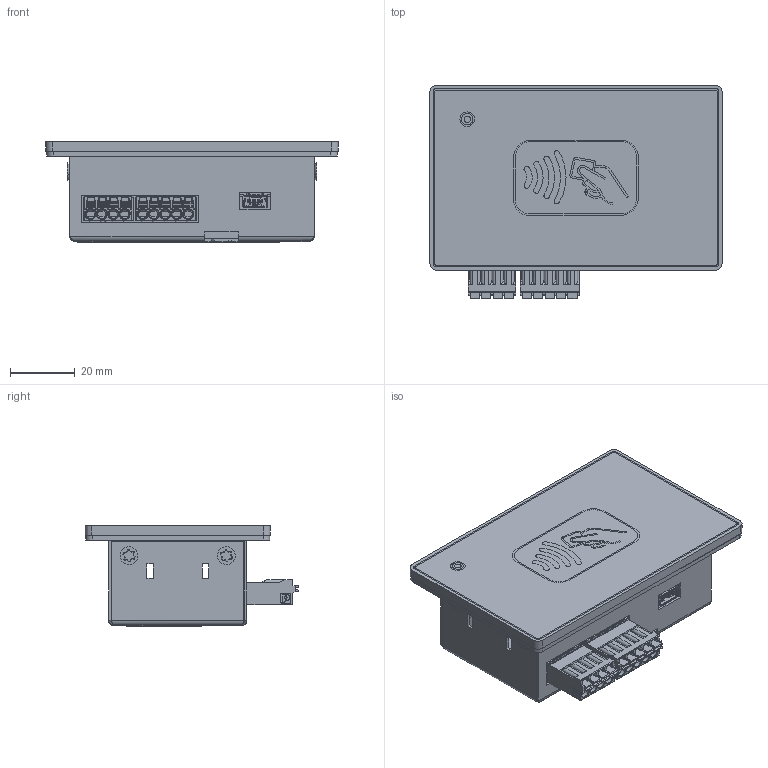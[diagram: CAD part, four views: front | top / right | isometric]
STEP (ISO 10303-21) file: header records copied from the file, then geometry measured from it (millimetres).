
FILE_DESCRIPTION (( 'STEP AP214' ), '1' );
FILE_NAME ('RFID 131 01-691-131.STEP', '2017-04-10T15:40:42', ( 'SIGMATEK GmbH & Co KG' ), ( 'SIGMATEK GmbH & Co KG' ), 'SwSTEP 2.0', 'SolidWorks 2017', '' );
FILE_SCHEMA (( 'AUTOMOTIVE_DESIGN' ));
Length unit declared in the file: millimetre
Products named in the file (17): Zexxxx-4163-x1 Montageblech Einbau RFID; Zexxxx-4162-x2 Gehäuse EinbauRFID; fh_m3_10; 134001 01022017; 4110262173 5pol._Federkraftstecker_fmc_1.5-5-st-3.5_1952296; 4110262172 4pol.Federkraftstecker f.2reih 1705390; 4110251205 4pol.Minicombicon-Grundgehäuse RM3,5 1937512; 4110262152 mc1.5-5-g-tht 1937525; 7297771156 8-fach SMD DIP Switch gerade CuK SDA08H0SB; 118702_140929; 4080225241 MINI USB, B Type Receptacle conn. Right Angle Surface Mount Type 10033526-N3212LF; 3030261950 Senkschraube M3 x 6 TX10 - 4.8 verzinkt; ZExxxx-4161-x2 Glasfront RFID131; RFID 131 01-691-131; Zexxxx-4221-x2 Folie Steckerbelegung RFID131; ZExxxx-4158-x4 Moosgummidichtung RFID131
Assembly tree (21 placements, depth 3):
  RFID 131 01-691-131
    ZExxxx-4161-x2 Glasfront RFID131
    3030261950 Senkschraube M3 x 6 TX10 - 4.8 verzinkt  x4
    118702_140929
      4080225241 MINI USB, B Type Receptacle conn. Right Angle Surface Mount Type 10033526-N3212LF
    134001 01022017
      7297771156 8-fach SMD DIP Switch gerade CuK SDA08H0SB
      4110262152 mc1.5-5-g-tht 1937525
      4110251205 4pol.Minicombicon-Grundgehäuse RM3,5 1937512
      4110262172 4pol.Federkraftstecker f.2reih 1705390
      4110262173 5pol._Federkraftstecker_fmc_1.5-5-st-3.5_1952296
    Zexxxx-4162-x2 Gehäuse EinbauRFID
      Zexxxx-4162-x2 Gehäuse EinbauRFID
      fh_m3_10  x3
    Zexxxx-4163-x1 Montageblech Einbau RFID
    ZExxxx-4158-x4 Moosgummidichtung RFID131
    Zexxxx-4221-x2 Folie Steckerbelegung RFID131
Bounding box: 90 x 65.78 x 31.1 mm (x, y, z)
Volume: 30929.3 mm3; surface area: 46240.5 mm2
Topology: 19 solids, 25 shells, 3111 faces, 8397 edges, 5406 vertices
Faces by surface type: plane 2003, cylinder 794, cone 176, bspline 120, torus 18
Full cylindrical faces by diameter (mm): 0.2 x1, 0.9 x1
Entity records: 103559 total; most frequent: CARTESIAN_POINT 21605, ORIENTED_EDGE 15710, DIRECTION 14455, EDGE_CURVE 7860, VECTOR 5729, LINE 5729, VERTEX_POINT 5071, AXIS2_PLACEMENT_3D 4363
